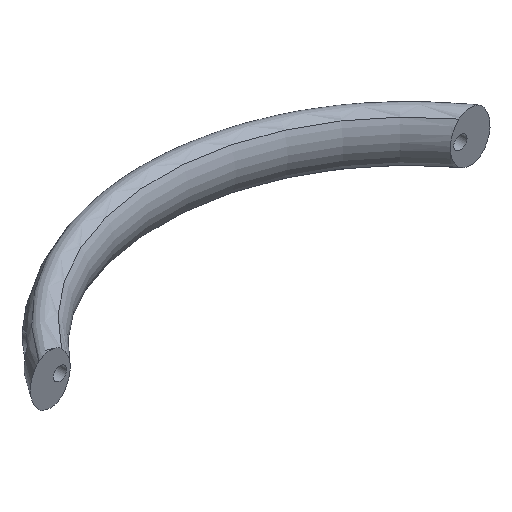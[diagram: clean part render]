
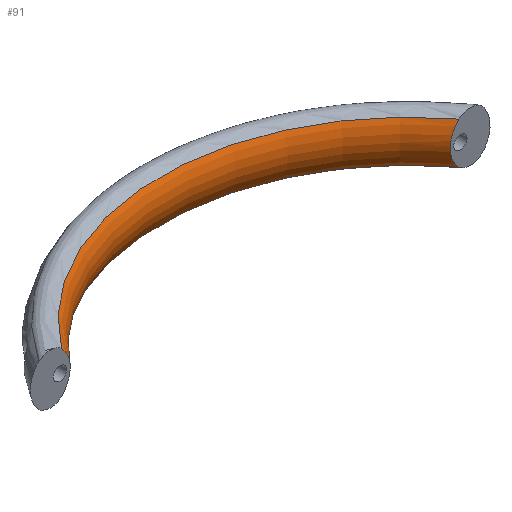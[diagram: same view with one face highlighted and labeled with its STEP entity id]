
A CAD part, isometric view. The second image highlights one B-rep face of the part: STEP entity #91.
In plain terms, the highlighted toroidal (fillet/blend) face has major radius 110.322 mm and minor radius 13.914 mm.
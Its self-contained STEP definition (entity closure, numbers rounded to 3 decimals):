
#91 = ADVANCED_FACE( '', ( #137 ), #138, .T. );
#137 = FACE_OUTER_BOUND( '', #187, .T. );
#138 = TOROIDAL_SURFACE( '', #188, 110.322, 13.914 );
#187 = EDGE_LOOP( '', ( #313, #314, #315, #316 ) );
#188 = AXIS2_PLACEMENT_3D( '', #317, #318, #319 );
#313 = ORIENTED_EDGE( '', *, *, #380, .F. );
#314 = ORIENTED_EDGE( '', *, *, #376, .T. );
#315 = ORIENTED_EDGE( '', *, *, #381, .T. );
#316 = ORIENTED_EDGE( '', *, *, #373, .T. );
#317 = CARTESIAN_POINT( '', ( 0., -59.408, 0. ) );
#318 = DIRECTION( '', ( 0., 0., -1. ) );
#319 = DIRECTION( '', ( -1., 0., 0. ) );
#373 = EDGE_CURVE( '', #440, #438, #441, .T. );
#376 = EDGE_CURVE( '', #445, #443, #446, .T. );
#380 = EDGE_CURVE( '', #445, #438, #452, .T. );
#381 = EDGE_CURVE( '', #443, #440, #453, .T. );
#438 = VERTEX_POINT( '', #694 );
#440 = VERTEX_POINT( '', #715 );
#441 = B_SPLINE_CURVE_WITH_KNOTS( '', 3, ( #716, #717, #718, #719, #720, #721, #722, #723, #724, #725, #726, #727, #728, #729, #730, #731, #732, #733, #734, #735, #736, #737, #738, #739, #740 ), .UNSPECIFIED., .F., .F., ( 4, 2, 2, 2, 2, 2, 1, 2, 2, 2, 2, 2, 4 ), ( 0.088, 0.091, 0.092, 0.093, 0.095, 0.096, 0.098, 0.099, 0.1, 0.102, 0.103, 0.104, 0.107 ), .UNSPECIFIED. );
#443 = VERTEX_POINT( '', #761 );
#445 = VERTEX_POINT( '', #780 );
#446 = B_SPLINE_CURVE_WITH_KNOTS( '', 3, ( #781, #782, #783, #784, #785, #786, #787, #788, #789, #790, #791, #792, #793, #794, #795, #796, #797, #798, #799, #800, #801, #802, #803, #804 ), .UNSPECIFIED., .F., .F., ( 4, 2, 2, 2, 2, 2, 2, 2, 2, 2, 2, 4 ), ( 0.08, 0.083, 0.084, 0.085, 0.087, 0.088, 0.089, 0.092, 0.093, 0.094, 0.096, 0.099 ), .UNSPECIFIED. );
#452 = CIRCLE( '', #827, 99.17 );
#453 = CIRCLE( '', #828, 99.17 );
#694 = CARTESIAN_POINT( '', ( 79.407, 0., 8.321 ) );
#715 = CARTESIAN_POINT( '', ( 79.407, 0., -8.321 ) );
#716 = CARTESIAN_POINT( '', ( 79.407, 0., -8.321 ) );
#717 = CARTESIAN_POINT( '', ( 78.883, 0., -7.759 ) );
#718 = CARTESIAN_POINT( '', ( 78.404, 0., -7.159 ) );
#719 = CARTESIAN_POINT( '', ( 77.763, 0., -6.197 ) );
#720 = CARTESIAN_POINT( '', ( 77.561, 0., -5.864 ) );
#721 = CARTESIAN_POINT( '', ( 77.189, 0., -5.183 ) );
#722 = CARTESIAN_POINT( '', ( 77.02, 0., -4.836 ) );
#723 = CARTESIAN_POINT( '', ( 76.565, 0., -3.776 ) );
#724 = CARTESIAN_POINT( '', ( 76.329, 0., -3.044 ) );
#725 = CARTESIAN_POINT( '', ( 76.088, 0., -1.905 ) );
#726 = CARTESIAN_POINT( '', ( 76.028, 0., -1.522 ) );
#727 = CARTESIAN_POINT( '', ( 75.948, 0., -0.758 ) );
#728 = CARTESIAN_POINT( '', ( 75.909, 0., 0.006 ) );
#729 = CARTESIAN_POINT( '', ( 75.949, 0., 0.772 ) );
#730 = CARTESIAN_POINT( '', ( 76.03, 0., 1.537 ) );
#731 = CARTESIAN_POINT( '', ( 76.091, 0., 1.922 ) );
#732 = CARTESIAN_POINT( '', ( 76.332, 0., 3.053 ) );
#733 = CARTESIAN_POINT( '', ( 76.567, 0., 3.782 ) );
#734 = CARTESIAN_POINT( '', ( 77.023, 0., 4.84 ) );
#735 = CARTESIAN_POINT( '', ( 77.192, 0., 5.188 ) );
#736 = CARTESIAN_POINT( '', ( 77.563, 0., 5.868 ) );
#737 = CARTESIAN_POINT( '', ( 77.763, 0., 6.197 ) );
#738 = CARTESIAN_POINT( '', ( 78.402, 0., 7.155 ) );
#739 = CARTESIAN_POINT( '', ( 78.88, 0., 7.756 ) );
#740 = CARTESIAN_POINT( '', ( 79.407, 0., 8.321 ) );
#761 = CARTESIAN_POINT( '', ( -79.407, 0., -8.321 ) );
#780 = CARTESIAN_POINT( '', ( -79.407, 0., 8.321 ) );
#781 = CARTESIAN_POINT( '', ( -79.407, 0., 8.321 ) );
#782 = CARTESIAN_POINT( '', ( -78.879, 0., 7.755 ) );
#783 = CARTESIAN_POINT( '', ( -78.401, 0., 7.155 ) );
#784 = CARTESIAN_POINT( '', ( -77.763, 0., 6.197 ) );
#785 = CARTESIAN_POINT( '', ( -77.564, 0., 5.869 ) );
#786 = CARTESIAN_POINT( '', ( -77.194, 0., 5.191 ) );
#787 = CARTESIAN_POINT( '', ( -77.022, 0., 4.84 ) );
#788 = CARTESIAN_POINT( '', ( -76.565, 0., 3.777 ) );
#789 = CARTESIAN_POINT( '', ( -76.331, 0., 3.049 ) );
#790 = CARTESIAN_POINT( '', ( -76.093, 0., 1.927 ) );
#791 = CARTESIAN_POINT( '', ( -76.032, 0., 1.549 ) );
#792 = CARTESIAN_POINT( '', ( -75.95, 0., 0.781 ) );
#793 = CARTESIAN_POINT( '', ( -75.929, 0., 0.39 ) );
#794 = CARTESIAN_POINT( '', ( -75.929, 0., -0.769 ) );
#795 = CARTESIAN_POINT( '', ( -76.009, 0., -1.531 ) );
#796 = CARTESIAN_POINT( '', ( -76.248, 0., -2.661 ) );
#797 = CARTESIAN_POINT( '', ( -76.348, 0., -3.037 ) );
#798 = CARTESIAN_POINT( '', ( -76.584, 0., -3.777 ) );
#799 = CARTESIAN_POINT( '', ( -76.721, 0., -4.139 ) );
#800 = CARTESIAN_POINT( '', ( -77.18, 0., -5.205 ) );
#801 = CARTESIAN_POINT( '', ( -77.558, 0., -5.89 ) );
#802 = CARTESIAN_POINT( '', ( -78.41, 0., -7.166 ) );
#803 = CARTESIAN_POINT( '', ( -78.886, 0., -7.762 ) );
#804 = CARTESIAN_POINT( '', ( -79.407, 0., -8.321 ) );
#827 = AXIS2_PLACEMENT_3D( '', #885, #886, #887 );
#828 = AXIS2_PLACEMENT_3D( '', #888, #889, #890 );
#885 = CARTESIAN_POINT( '', ( 0., -59.408, 8.321 ) );
#886 = DIRECTION( '', ( 0., 0., -1. ) );
#887 = DIRECTION( '', ( -1., 0., 0. ) );
#888 = CARTESIAN_POINT( '', ( 0., -59.408, -8.321 ) );
#889 = DIRECTION( '', ( 0., 0., -1. ) );
#890 = DIRECTION( '', ( -1., 0., 0. ) );
